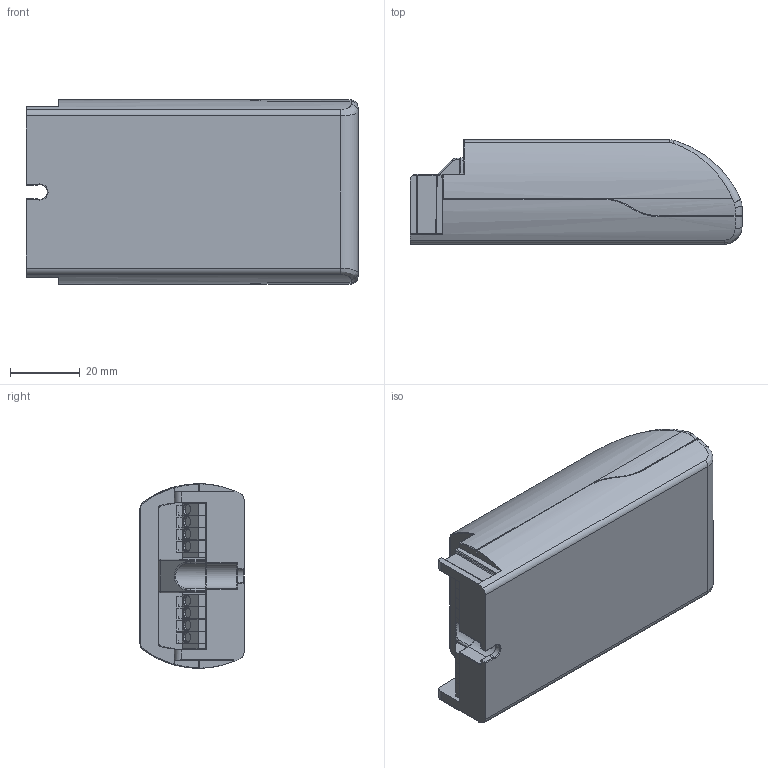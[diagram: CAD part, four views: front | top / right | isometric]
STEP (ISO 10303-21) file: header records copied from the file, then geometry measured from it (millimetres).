
FILE_DESCRIPTION (( 'STEP AP214' ), '1' );
FILE_NAME ('4184627swm000.step', '2020-01-17T06:36:13', ( 'OSRAM' ), ( 'OSRAM' ), 'SwSTEP 2.0', 'SolidWorks 2017', '' );
FILE_SCHEMA (( 'AUTOMOTIVE_DESIGN' ));
Length unit declared in the file: millimetre
Products named in the file (1): 4184627swm000
Bounding box: 95 x 29.8 x 52.8 mm (x, y, z)
Volume: 123357 mm3; surface area: 20075.1 mm2
Topology: 1 solids, 3 shells, 689 faces, 1805 edges, 1095 vertices
Faces by surface type: plane 450, cylinder 146, bspline 30, torus 28, cone 25, sphere 10
Entity records: 29866 total; most frequent: CARTESIAN_POINT 5938, ORIENTED_EDGE 3590, DIRECTION 3161, EDGE_CURVE 1795, VECTOR 1303, LINE 1303, VERTEX_POINT 1095, AXIS2_PLACEMENT_3D 929
